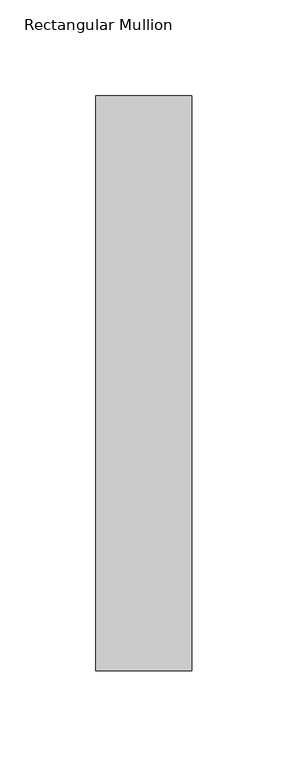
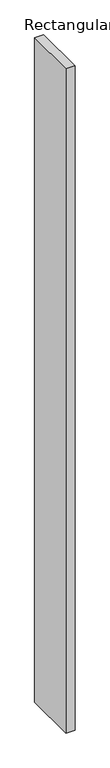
"""IFC4 building model written with IfcOpenShell, lengths in millimetres: member geometry, Rectangular Mullion : 50 x 150mm Ask."""

from ifc_helpers import new_model, si_unit, frame, origin, place, context, project, spatial, polyline, outline, extrude, source, transform, mapped, element, save


def rectangular_mullion_79819176(model_context):
    return source(origin(), model_context, "Body", "SweptSolid", [
        extrude(outline(polyline([(0.0, 175.0), (0.0, -125.0), (-50.0, -125.0), (-50.0, 175.0), (0.0, 175.0)])), frame((0.0, 0.0, -3900.0), z_axis=(0.0, 0.0, 1.0), x_axis=(1.0, 0.0, 0.0)), (0.0, 0.0, 1.0), 3900.0),
    ])


if __name__ == "__main__":
    model = new_model("IFC4")
    model_context = context("Model", 3, world=origin())
    ifc_project = project(units=[si_unit("LENGTHUNIT", "METRE", prefix="MILLI")], contexts=[model_context])
    site = spatial("IfcSite", under=ifc_project)
    building = spatial("IfcBuilding", under=site)
    placement = place(None, origin())
    rectangular_mullion_shape = rectangular_mullion_79819176(model_context)
    element("IfcMember", 1, ObjectType="Rectangular Mullion : 50 x 150mm Ask", at=placement, inside=building, context=model_context, shape_type="MappedRepresentation", body=[
        mapped(rectangular_mullion_shape, transform((0.0, 0.0, 0.0), x_axis=(1.0, 0.0, 0.0), y_axis=(0.0, 1.0, 0.0), z_axis=(0.0, 0.0, 1.0))),
    ])
    save(model, "model.ifc")
